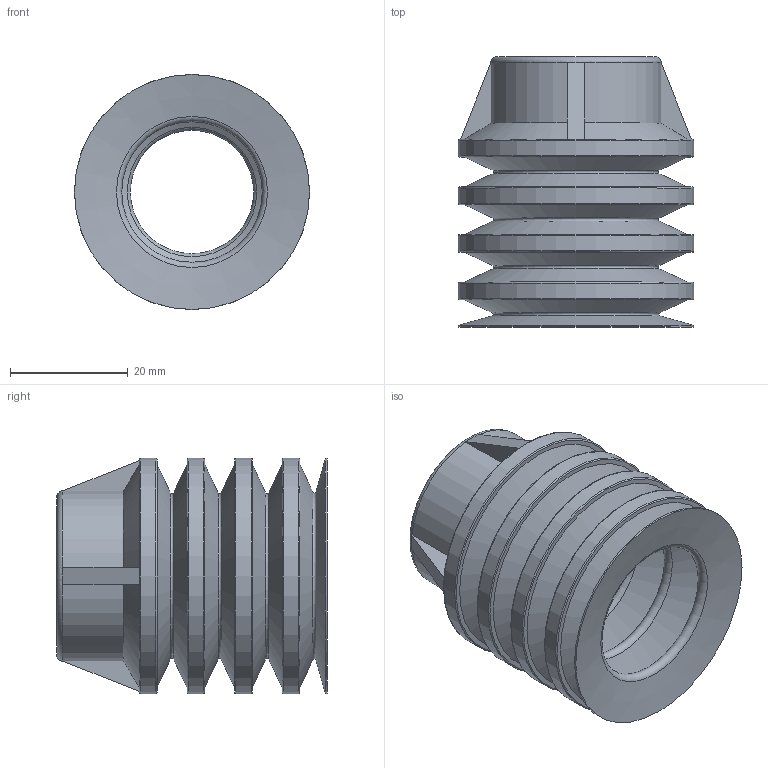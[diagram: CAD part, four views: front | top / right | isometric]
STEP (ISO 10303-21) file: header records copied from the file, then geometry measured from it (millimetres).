
FILE_DESCRIPTION(('STEP AP203'),'1');
FILE_NAME('HGL-40.stp','2025-02-19T01:59:36',(' '),(' '),'Spatial InterOp 3D',' ',' ');
FILE_SCHEMA(('CONFIG_CONTROL_DESIGN'));
Length unit declared in the file: millimetre
Products named in the file (1): 1
Bounding box: 40.02 x 46 x 40.02 mm (x, y, z)
Volume: 13565.3 mm3; surface area: 17211.9 mm2
Topology: 1 solids, 1 shells, 91 faces, 186 edges, 106 vertices
Faces by surface type: plane 31, torus 27, cone 22, cylinder 11
Full cylindrical faces by diameter (mm): 21 x2, 25 x1, 40.02 x4
Entity records: 2146 total; most frequent: DIRECTION 392, CARTESIAN_POINT 356, ORIENTED_EDGE 268, AXIS2_PLACEMENT_3D 174, EDGE_LOOP 154, EDGE_CURVE 134, FACE_OUTER_BOUND 125, VERTEX_POINT 106
